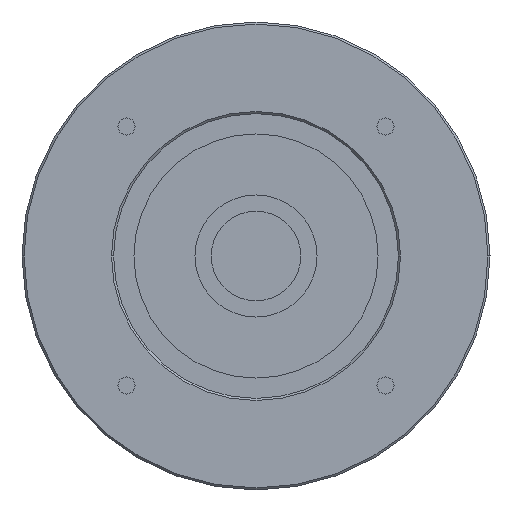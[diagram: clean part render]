
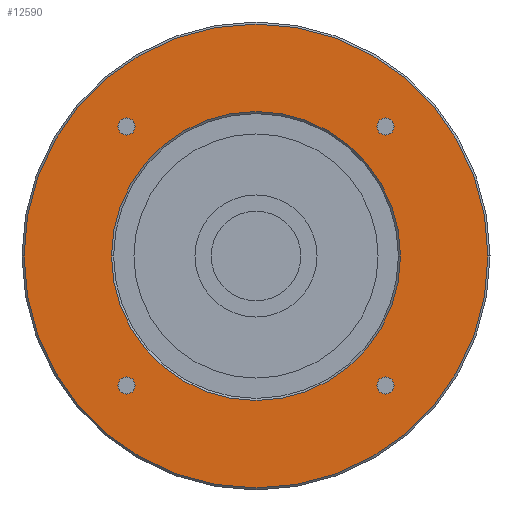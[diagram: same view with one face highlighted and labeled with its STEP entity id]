
A CAD part, left-side view. The second image highlights one B-rep face of the part: STEP entity #12590.
In plain terms, the highlighted planar face has unit normal (-1, 0, 0) as drawn and (0, 0, -1) by its records, which use the part's own axes.
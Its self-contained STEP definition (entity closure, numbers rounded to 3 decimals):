
#9320=CARTESIAN_POINT('',(31.82,33.92,-63.6));
#9330=VERTEX_POINT('',#9320);
#9380=CARTESIAN_POINT('',(31.82,31.82,-63.6));
#9390=DIRECTION('',(0.,0.,-1.));
#9400=DIRECTION('',(1.,0.,0.));
#9410=AXIS2_PLACEMENT_3D('',#9380,#9390,#9400);
#9420=CIRCLE('',#9410,2.1);
#9430=CARTESIAN_POINT('',(31.82,29.72,-63.6));
#9440=VERTEX_POINT('',#9430);
#9450=EDGE_CURVE('',#9440,#9330,#9420,.T.);
#11320=CARTESIAN_POINT('',(57.,0.,-63.6));
#11330=VERTEX_POINT('',#11320);
#11360=CARTESIAN_POINT('',(0.,0.,
-63.6));
#11370=DIRECTION('',(0.,0.,-1.));
#11380=DIRECTION('',(0.,-1.,0.));
#11390=AXIS2_PLACEMENT_3D('',#11360,#11370,#11380);
#11400=CIRCLE('',#11390,57.);
#11410=CARTESIAN_POINT('',(0.,-57.,-63.6));
#11420=VERTEX_POINT('',#11410);
#11430=EDGE_CURVE('',#11330,#11420,#11400,.T.);
#11450=CARTESIAN_POINT('',(-57.,0.,-63.6));
#11460=VERTEX_POINT('',#11450);
#11470=EDGE_CURVE('',#11420,#11460,#11400,.T.);
#11630=CARTESIAN_POINT('',(0.,0.,
-63.6));
#11640=DIRECTION('',(0.,0.,-1.));
#11650=DIRECTION('',(0.,-1.,0.));
#11660=AXIS2_PLACEMENT_3D('',#11630,#11640,#11650);
#11670=PLANE('',#11660);
#11680=EDGE_CURVE('',#11460,#11330,#11400,.T.);
#11690=ORIENTED_EDGE('',*,*,#11680,.T.);
#11700=ORIENTED_EDGE('',*,*,#11470,.T.);
#11710=ORIENTED_EDGE('',*,*,#11430,.T.);
#11720=EDGE_LOOP('',(#11710,#11700,#11690));
#11730=FACE_OUTER_BOUND('',#11720,.T.);
#11740=CARTESIAN_POINT('',(0.,0.,
-63.6));
#11750=DIRECTION('',(0.,0.,-1.));
#11760=DIRECTION('',(0.,-1.,0.));
#11770=AXIS2_PLACEMENT_3D('',#11740,#11750,#11760);
#11780=CIRCLE('',#11770,35.5);
#11790=CARTESIAN_POINT('',(0.,-35.5,-63.6));
#11800=VERTEX_POINT('',#11790);
#11810=CARTESIAN_POINT('',(-35.5,0.,-63.6));
#11820=VERTEX_POINT('',#11810);
#11830=EDGE_CURVE('',#11800,#11820,#11780,.T.);
#11840=ORIENTED_EDGE('',*,*,#11830,.F.);
#11850=CARTESIAN_POINT('',(35.5,0.,-63.6));
#11860=VERTEX_POINT('',#11850);
#11870=EDGE_CURVE('',#11820,#11860,#11780,.T.);
#11880=ORIENTED_EDGE('',*,*,#11870,.F.);
#11890=EDGE_CURVE('',#11860,#11800,#11780,.T.);
#11900=ORIENTED_EDGE('',*,*,#11890,.F.);
#11910=EDGE_LOOP('',(#11900,#11880,#11840));
#11920=FACE_BOUND('',#11910,.T.);
#11930=CARTESIAN_POINT('',(-31.82,-31.82,-63.6));
#11940=DIRECTION('',(0.,0.,-1.));
#11950=DIRECTION('',(1.,0.,0.));
#11960=AXIS2_PLACEMENT_3D('',#11930,#11940,#11950);
#11970=CIRCLE('',#11960,2.1);
#11980=CARTESIAN_POINT('',(-29.72,-31.82,-63.6));
#11990=VERTEX_POINT('',#11980);
#12000=CARTESIAN_POINT('',(-31.82,-33.92,-63.6));
#12010=VERTEX_POINT('',#12000);
#12020=EDGE_CURVE('',#11990,#12010,#11970,.T.);
#12030=ORIENTED_EDGE('',*,*,#12020,.F.);
#12040=CARTESIAN_POINT('',(-31.82,-29.72,-63.6));
#12050=VERTEX_POINT('',#12040);
#12060=EDGE_CURVE('',#12010,#12050,#11970,.T.);
#12070=ORIENTED_EDGE('',*,*,#12060,.F.);
#12080=EDGE_CURVE('',#12050,#11990,#11970,.T.);
#12090=ORIENTED_EDGE('',*,*,#12080,.F.);
#12100=EDGE_LOOP('',(#12090,#12070,#12030));
#12110=FACE_BOUND('',#12100,.T.);
#12120=CARTESIAN_POINT('',(-31.82,31.82,-63.6));
#12130=DIRECTION('',(0.,0.,-1.));
#12140=DIRECTION('',(1.,0.,0.));
#12150=AXIS2_PLACEMENT_3D('',#12120,#12130,#12140);
#12160=CIRCLE('',#12150,2.1);
#12170=CARTESIAN_POINT('',(-29.72,31.82,-63.6));
#12180=VERTEX_POINT('',#12170);
#12190=CARTESIAN_POINT('',(-31.82,29.72,-63.6));
#12200=VERTEX_POINT('',#12190);
#12210=EDGE_CURVE('',#12180,#12200,#12160,.T.);
#12220=ORIENTED_EDGE('',*,*,#12210,.F.);
#12230=CARTESIAN_POINT('',(-31.82,33.92,-63.6));
#12240=VERTEX_POINT('',#12230);
#12250=EDGE_CURVE('',#12200,#12240,#12160,.T.);
#12260=ORIENTED_EDGE('',*,*,#12250,.F.);
#12270=EDGE_CURVE('',#12240,#12180,#12160,.T.);
#12280=ORIENTED_EDGE('',*,*,#12270,.F.);
#12290=EDGE_LOOP('',(#12280,#12260,#12220));
#12300=FACE_BOUND('',#12290,.T.);
#12310=CARTESIAN_POINT('',(33.92,31.82,-63.6));
#12320=VERTEX_POINT('',#12310);
#12330=EDGE_CURVE('',#12320,#9440,#9420,.T.);
#12340=ORIENTED_EDGE('',*,*,#12330,.F.);
#12350=ORIENTED_EDGE('',*,*,#9450,.F.);
#12360=EDGE_CURVE('',#9330,#12320,#9420,.T.);
#12370=ORIENTED_EDGE('',*,*,#12360,.F.);
#12380=EDGE_LOOP('',(#12370,#12350,#12340));
#12390=FACE_BOUND('',#12380,.T.);
#12400=CARTESIAN_POINT('',(31.82,-31.82,-63.6));
#12410=DIRECTION('',(0.,0.,-1.));
#12420=DIRECTION('',(1.,0.,0.));
#12430=AXIS2_PLACEMENT_3D('',#12400,#12410,#12420);
#12440=CIRCLE('',#12430,2.1);
#12450=CARTESIAN_POINT('',(33.92,-31.82,-63.6));
#12460=VERTEX_POINT('',#12450);
#12470=CARTESIAN_POINT('',(31.82,-33.92,-63.6));
#12480=VERTEX_POINT('',#12470);
#12490=EDGE_CURVE('',#12460,#12480,#12440,.T.);
#12500=ORIENTED_EDGE('',*,*,#12490,.F.);
#12510=CARTESIAN_POINT('',(31.82,-29.72,-63.6));
#12520=VERTEX_POINT('',#12510);
#12530=EDGE_CURVE('',#12480,#12520,#12440,.T.);
#12540=ORIENTED_EDGE('',*,*,#12530,.F.);
#12550=EDGE_CURVE('',#12520,#12460,#12440,.T.);
#12560=ORIENTED_EDGE('',*,*,#12550,.F.);
#12570=EDGE_LOOP('',(#12560,#12540,#12500));
#12580=FACE_BOUND('',#12570,.T.);
#12590=ADVANCED_FACE('',(#11730,#11920,#12110,#12300,#12390,#12580),
#11670,.T.);
